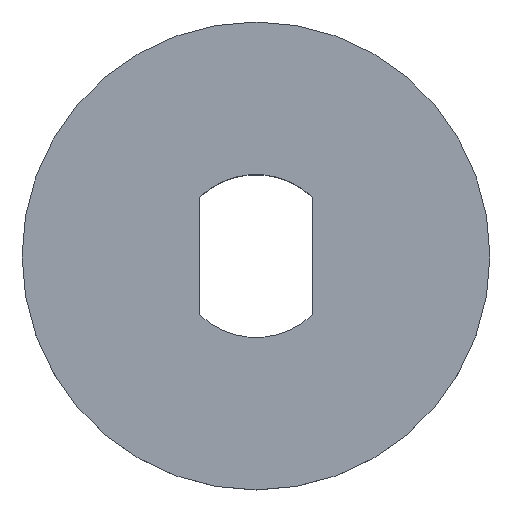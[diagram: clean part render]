
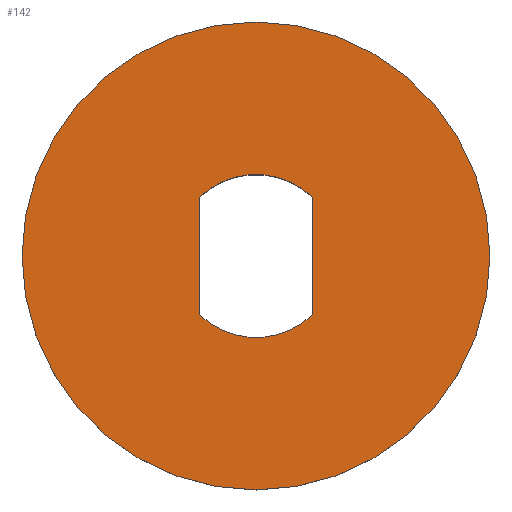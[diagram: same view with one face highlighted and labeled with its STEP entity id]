
A CAD part, top view. The second image highlights one B-rep face of the part: STEP entity #142.
In plain terms, the highlighted planar face has unit normal (0, 0, 1).
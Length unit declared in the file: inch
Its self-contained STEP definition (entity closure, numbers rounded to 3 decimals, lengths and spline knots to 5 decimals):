
#83=CARTESIAN_POINT('',(0.3875,0.,0.31));
#84=VERTEX_POINT('',#83);
#85=CARTESIAN_POINT('',(0.0,0.0,0.31));
#86=DIRECTION('',(0.0,0.0,-1.0));
#87=DIRECTION('',(-1.0,0.0,0.0));
#88=AXIS2_PLACEMENT_3D('',#85,#86,#87);
#89=CIRCLE('',#88,0.3875);
#90=EDGE_CURVE('',#84,#84,#89,.T.);
#98=CARTESIAN_POINT('',(0.0,0.0,0.31));
#99=DIRECTION('',(0.0,0.0,-1.0));
#100=DIRECTION('',(-1.0,0.0,0.0));
#101=AXIS2_PLACEMENT_3D('',#98,#99,#100);
#102=PLANE('',#101);
#103=ORIENTED_EDGE('',*,*,#90,.F.);
#104=EDGE_LOOP('',(#103));
#105=FACE_OUTER_BOUND('',#104,.T.);
#106=CARTESIAN_POINT('',(-0.0935,-0.09738,0.31));
#107=VERTEX_POINT('',#106);
#108=CARTESIAN_POINT('',(-0.0935,0.09738,0.31));
#109=VERTEX_POINT('',#108);
#110=CARTESIAN_POINT('',(-0.0935,-0.09738,0.31));
#111=DIRECTION('',(0.0,1.0,0.0));
#112=VECTOR('',#111,0.19476);
#113=LINE('',#110,#112);
#114=EDGE_CURVE('',#107,#109,#113,.T.);
#115=ORIENTED_EDGE('',*,*,#114,.T.);
#116=CARTESIAN_POINT('',(0.0935,0.09738,0.31));
#117=VERTEX_POINT('',#116);
#118=CARTESIAN_POINT('',(0.0,0.0,0.31));
#119=DIRECTION('',(0.0,0.0,-1.0));
#120=DIRECTION('',(-0.693,-0.721,0.0));
#121=AXIS2_PLACEMENT_3D('',#118,#119,#120);
#122=CIRCLE('',#121,0.135);
#123=EDGE_CURVE('',#109,#117,#122,.T.);
#124=ORIENTED_EDGE('',*,*,#123,.T.);
#125=CARTESIAN_POINT('',(0.0935,-0.09738,0.31));
#126=VERTEX_POINT('',#125);
#127=CARTESIAN_POINT('',(0.0935,0.09738,0.31));
#128=DIRECTION('',(0.0,-1.0,0.0));
#129=VECTOR('',#128,0.19476);
#130=LINE('',#127,#129);
#131=EDGE_CURVE('',#117,#126,#130,.T.);
#132=ORIENTED_EDGE('',*,*,#131,.T.);
#133=CARTESIAN_POINT('',(0.0,0.0,0.31));
#134=DIRECTION('',(0.0,0.0,-1.));
#135=DIRECTION('',(0.693,0.721,0.0));
#136=AXIS2_PLACEMENT_3D('',#133,#134,#135);
#137=CIRCLE('',#136,0.135);
#138=EDGE_CURVE('',#126,#107,#137,.T.);
#139=ORIENTED_EDGE('',*,*,#138,.T.);
#140=EDGE_LOOP('',(#115,#124,#132,#139));
#141=FACE_BOUND('',#140,.T.);
#142=ADVANCED_FACE('',(#105,#141),#102,.F.);
